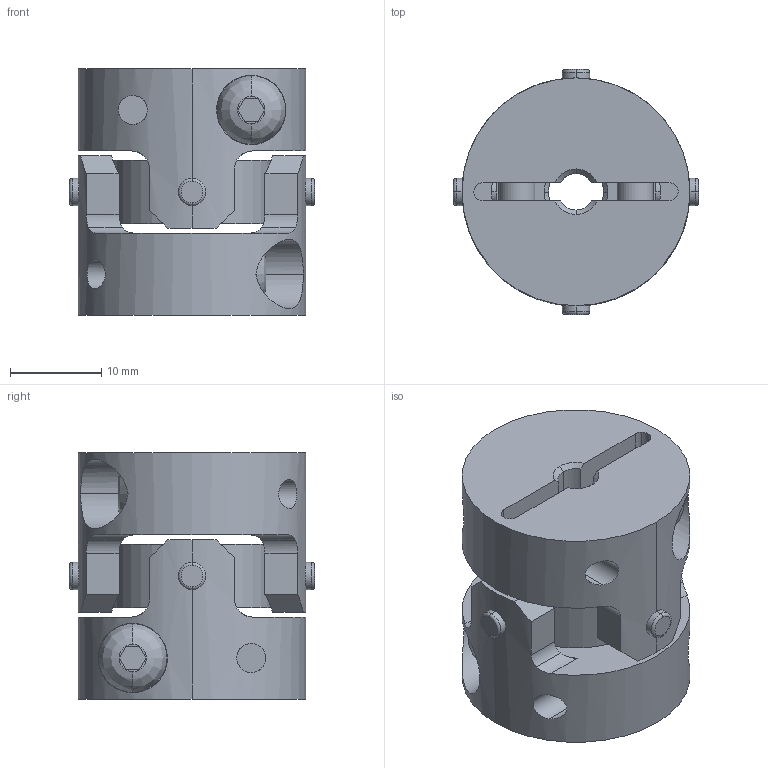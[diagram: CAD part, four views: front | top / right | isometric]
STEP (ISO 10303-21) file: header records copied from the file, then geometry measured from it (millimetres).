
FILE_DESCRIPTION((''),'2;1');
FILE_NAME('UA-25C-4×6.stp','2013-11-12T14:17:11',(''),(''),'AutoCAD STEP 2000i','AutoCAD 2000i',', , ');
FILE_SCHEMA(('CONFIG_CONTROL_DESIGN'));
Length unit declared in the file: millimetre
Products named in the file (6): UA-25C-5×5; 忣兜1; UA-2502-D05-1; BTN-M4; UA-2502-D05; UA25-SEN
Assembly tree (6 placements, depth 3):
  UA-25C-5×5
    忣兜1
    UA-2502-D05-1
      BTN-M4
    UA-2502-D05
      BTN-M4
    UA25-SEN
Bounding box: 26.89 x 26.89 x 27 mm (x, y, z)
Volume: 9474.8 mm3; surface area: 6505.7 mm2
Topology: 1 solids, 1 shells, 206 faces, 554 edges, 364 vertices
Faces by surface type: cylinder 96, plane 78, cone 16, bspline 8, torus 8
Entity records: 8291 total; most frequent: CARTESIAN_POINT 2975, ORIENTED_EDGE 1108, DIRECTION 1064, EDGE_CURVE 554, AXIS2_PLACEMENT_3D 409, VERTEX_POINT 364, VECTOR 246, LINE 246
